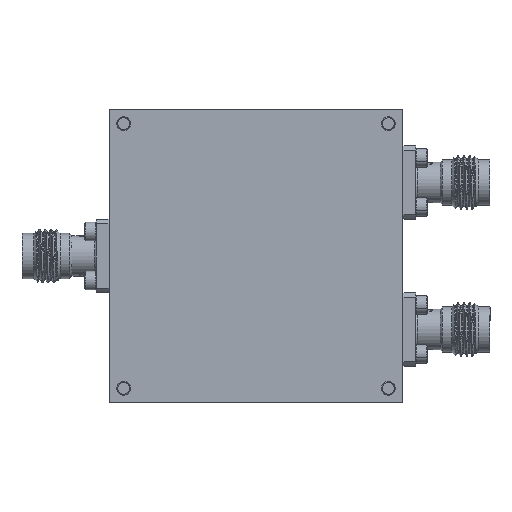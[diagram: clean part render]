
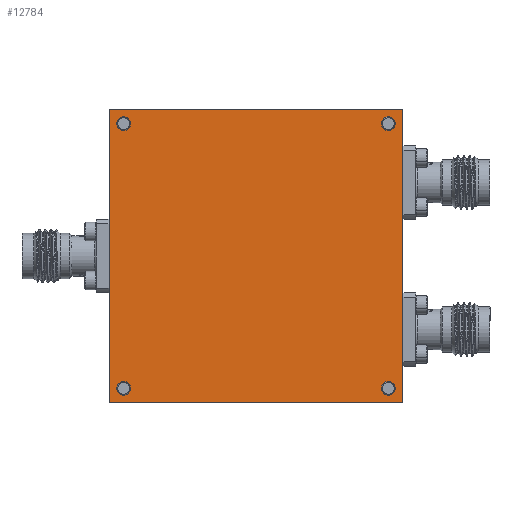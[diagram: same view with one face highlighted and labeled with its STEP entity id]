
A CAD part, front view. The second image highlights one B-rep face of the part: STEP entity #12784.
In plain terms, the highlighted planar face has unit normal (0, -1, 0).
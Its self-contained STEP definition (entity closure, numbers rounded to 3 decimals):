
#9 = DIRECTION ( 'NONE',  ( 0., 0., 1. ) ) ;
#268 = ORIENTED_EDGE ( 'NONE', *, *, #14958, .F. ) ;
#310 = ORIENTED_EDGE ( 'NONE', *, *, #19138, .F. ) ;
#601 = DIRECTION ( 'NONE',  ( 0., 1., 0. ) ) ;
#700 = VERTEX_POINT ( 'NONE', #12229 ) ;
#919 = ORIENTED_EDGE ( 'NONE', *, *, #14444, .F. ) ;
#1016 = DIRECTION ( 'NONE',  ( 0., 0., 1. ) ) ;
#1077 = EDGE_LOOP ( 'NONE', ( #13129, #7685 ) ) ;
#1119 = DIRECTION ( 'NONE',  ( 0., 1., 0. ) ) ;
#1267 = DIRECTION ( 'NONE',  ( 0., 0., 1. ) ) ;
#1419 = LINE ( 'NONE', #9518, #14191 ) ;
#1447 = CARTESIAN_POINT ( 'NONE',  ( 19.05, 0., 19.05 ) ) ;
#1568 = ORIENTED_EDGE ( 'NONE', *, *, #5985, .F. ) ;
#1699 = ORIENTED_EDGE ( 'NONE', *, *, #11098, .T. ) ;
#1992 = CARTESIAN_POINT ( 'NONE',  ( -17.145, 0., 17.145 ) ) ;
#2035 = DIRECTION ( 'NONE',  ( 1., 0., 0. ) ) ;
#2134 = LINE ( 'NONE', #7050, #11267 ) ;
#2359 = CIRCLE ( 'NONE', #16712, 0.889 ) ;
#2596 = VECTOR ( 'NONE', #17987, 1000. ) ;
#2653 = CARTESIAN_POINT ( 'NONE',  ( 17.145, 0., -17.145 ) ) ;
#2686 = DIRECTION ( 'NONE',  ( 0., 0., 1. ) ) ;
#2745 = CARTESIAN_POINT ( 'NONE',  ( -17.145, 0., 16.256 ) ) ;
#2779 = CARTESIAN_POINT ( 'NONE',  ( 17.145, 0., -18.034 ) ) ;
#2800 = EDGE_CURVE ( 'NONE', #10736, #11193, #19346, .T. ) ;
#3362 = VERTEX_POINT ( 'NONE', #17088 ) ;
#3402 = VERTEX_POINT ( 'NONE', #2779 ) ;
#3848 = FACE_BOUND ( 'NONE', #15353, .T. ) ;
#4230 = EDGE_CURVE ( 'NONE', #700, #11033, #2359, .T. ) ;
#4617 = CIRCLE ( 'NONE', #15298, 0.889 ) ;
#4703 = VERTEX_POINT ( 'NONE', #16379 ) ;
#4943 = CARTESIAN_POINT ( 'NONE',  ( 19.05, 0., -19.05 ) ) ;
#4952 = DIRECTION ( 'NONE',  ( 0., 1., 0. ) ) ;
#5037 = EDGE_LOOP ( 'NONE', ( #919, #268, #1568, #310 ) ) ;
#5234 = CIRCLE ( 'NONE', #11925, 0.889 ) ;
#5257 = CARTESIAN_POINT ( 'NONE',  ( 17.145, 0., 17.145 ) ) ;
#5485 = DIRECTION ( 'NONE',  ( 0., 1., 0. ) ) ;
#5507 = PLANE ( 'NONE',  #6627 ) ;
#5660 = DIRECTION ( 'NONE',  ( 0., 0., 1. ) ) ;
#5681 = ORIENTED_EDGE ( 'NONE', *, *, #2800, .T. ) ;
#5747 = ORIENTED_EDGE ( 'NONE', *, *, #15283, .T. ) ;
#5895 = DIRECTION ( 'NONE',  ( 0., 1., 0. ) ) ;
#5900 = AXIS2_PLACEMENT_3D ( 'NONE', #1992, #4952, #11567 ) ;
#5985 = EDGE_CURVE ( 'NONE', #14064, #4703, #8675, .T. ) ;
#6580 = ORIENTED_EDGE ( 'NONE', *, *, #4230, .T. ) ;
#6627 = AXIS2_PLACEMENT_3D ( 'NONE', #8076, #14394, #10542 ) ;
#6791 = AXIS2_PLACEMENT_3D ( 'NONE', #19510, #14443, #8034 ) ;
#7050 = CARTESIAN_POINT ( 'NONE',  ( -19.05, 0., 19.05 ) ) ;
#7552 = CIRCLE ( 'NONE', #5900, 0.889 ) ;
#7685 = ORIENTED_EDGE ( 'NONE', *, *, #11134, .T. ) ;
#8034 = DIRECTION ( 'NONE',  ( 0., 0., 1. ) ) ;
#8076 = CARTESIAN_POINT ( 'NONE',  ( 0., 0., 0. ) ) ;
#8221 = CIRCLE ( 'NONE', #18220, 0.889 ) ;
#8383 = ORIENTED_EDGE ( 'NONE', *, *, #14583, .T. ) ;
#8675 = LINE ( 'NONE', #14857, #19831 ) ;
#8780 = CARTESIAN_POINT ( 'NONE',  ( 17.145, 0., -16.256 ) ) ;
#9185 = CARTESIAN_POINT ( 'NONE',  ( 19.05, 0., -19.05 ) ) ;
#9516 = AXIS2_PLACEMENT_3D ( 'NONE', #18349, #20116, #2686 ) ;
#9518 = CARTESIAN_POINT ( 'NONE',  ( -19.05, 0., -19.05 ) ) ;
#9701 = VERTEX_POINT ( 'NONE', #2745 ) ;
#9881 = CARTESIAN_POINT ( 'NONE',  ( 17.145, 0., 18.034 ) ) ;
#10242 = FACE_BOUND ( 'NONE', #1077, .T. ) ;
#10542 = DIRECTION ( 'NONE',  ( 0., 0., 1. ) ) ;
#10736 = VERTEX_POINT ( 'NONE', #15128 ) ;
#10913 = EDGE_LOOP ( 'NONE', ( #5747, #15588 ) ) ;
#11033 = VERTEX_POINT ( 'NONE', #17590 ) ;
#11098 = EDGE_CURVE ( 'NONE', #11193, #10736, #8221, .T. ) ;
#11134 = EDGE_CURVE ( 'NONE', #9701, #3362, #7552, .T. ) ;
#11193 = VERTEX_POINT ( 'NONE', #9881 ) ;
#11267 = VECTOR ( 'NONE', #2035, 1000. ) ;
#11342 = VERTEX_POINT ( 'NONE', #8780 ) ;
#11567 = DIRECTION ( 'NONE',  ( 0., 0., 1. ) ) ;
#11925 = AXIS2_PLACEMENT_3D ( 'NONE', #2653, #5895, #1267 ) ;
#12229 = CARTESIAN_POINT ( 'NONE',  ( -17.145, 0., -18.034 ) ) ;
#12321 = EDGE_LOOP ( 'NONE', ( #8383, #6580 ) ) ;
#12485 = VERTEX_POINT ( 'NONE', #9185 ) ;
#12784 = ADVANCED_FACE ( 'NONE', ( #14926, #18139, #3848, #10242, #16581 ), #5507, .F. ) ;
#12859 = CIRCLE ( 'NONE', #6791, 0.889 ) ;
#13129 = ORIENTED_EDGE ( 'NONE', *, *, #17433, .T. ) ;
#13515 = CARTESIAN_POINT ( 'NONE',  ( -17.145, 0., -17.145 ) ) ;
#13763 = DIRECTION ( 'NONE',  ( 0., 0., 1. ) ) ;
#13831 = CIRCLE ( 'NONE', #9516, 0.889 ) ;
#14064 = VERTEX_POINT ( 'NONE', #15848 ) ;
#14191 = VECTOR ( 'NONE', #15661, 1000. ) ;
#14384 = LINE ( 'NONE', #4943, #2596 ) ;
#14394 = DIRECTION ( 'NONE',  ( 0., 1., 0. ) ) ;
#14443 = DIRECTION ( 'NONE',  ( 0., 1., 0. ) ) ;
#14444 = EDGE_CURVE ( 'NONE', #16348, #12485, #14384, .T. ) ;
#14583 = EDGE_CURVE ( 'NONE', #11033, #700, #4617, .T. ) ;
#14857 = CARTESIAN_POINT ( 'NONE',  ( -19.05, 0., -19.05 ) ) ;
#14926 = FACE_BOUND ( 'NONE', #12321, .T. ) ;
#14958 = EDGE_CURVE ( 'NONE', #4703, #16348, #2134, .T. ) ;
#15003 = CARTESIAN_POINT ( 'NONE',  ( 17.145, 0., 17.145 ) ) ;
#15128 = CARTESIAN_POINT ( 'NONE',  ( 17.145, 0., 16.256 ) ) ;
#15283 = EDGE_CURVE ( 'NONE', #11342, #3402, #5234, .T. ) ;
#15298 = AXIS2_PLACEMENT_3D ( 'NONE', #13515, #601, #5660 ) ;
#15353 = EDGE_LOOP ( 'NONE', ( #1699, #5681 ) ) ;
#15367 = CARTESIAN_POINT ( 'NONE',  ( -17.145, 0., -17.145 ) ) ;
#15588 = ORIENTED_EDGE ( 'NONE', *, *, #19388, .T. ) ;
#15661 = DIRECTION ( 'NONE',  ( -1., 0., 0. ) ) ;
#15848 = CARTESIAN_POINT ( 'NONE',  ( -19.05, 0., -19.05 ) ) ;
#16010 = AXIS2_PLACEMENT_3D ( 'NONE', #15003, #5485, #13763 ) ;
#16348 = VERTEX_POINT ( 'NONE', #1447 ) ;
#16379 = CARTESIAN_POINT ( 'NONE',  ( -19.05, 0., 19.05 ) ) ;
#16581 = FACE_OUTER_BOUND ( 'NONE', #5037, .T. ) ;
#16712 = AXIS2_PLACEMENT_3D ( 'NONE', #15367, #1119, #1016 ) ;
#16723 = DIRECTION ( 'NONE',  ( 0., 0., 1. ) ) ;
#17088 = CARTESIAN_POINT ( 'NONE',  ( -17.145, 0., 18.034 ) ) ;
#17433 = EDGE_CURVE ( 'NONE', #3362, #9701, #13831, .T. ) ;
#17590 = CARTESIAN_POINT ( 'NONE',  ( -17.145, 0., -16.256 ) ) ;
#17987 = DIRECTION ( 'NONE',  ( 0., 0., -1. ) ) ;
#18139 = FACE_BOUND ( 'NONE', #10913, .T. ) ;
#18220 = AXIS2_PLACEMENT_3D ( 'NONE', #5257, #19357, #9 ) ;
#18349 = CARTESIAN_POINT ( 'NONE',  ( -17.145, 0., 17.145 ) ) ;
#19138 = EDGE_CURVE ( 'NONE', #12485, #14064, #1419, .T. ) ;
#19346 = CIRCLE ( 'NONE', #16010, 0.889 ) ;
#19357 = DIRECTION ( 'NONE',  ( 0., 1., 0. ) ) ;
#19388 = EDGE_CURVE ( 'NONE', #3402, #11342, #12859, .T. ) ;
#19510 = CARTESIAN_POINT ( 'NONE',  ( 17.145, 0., -17.145 ) ) ;
#19831 = VECTOR ( 'NONE', #16723, 1000. ) ;
#20116 = DIRECTION ( 'NONE',  ( 0., 1., 0. ) ) ;
